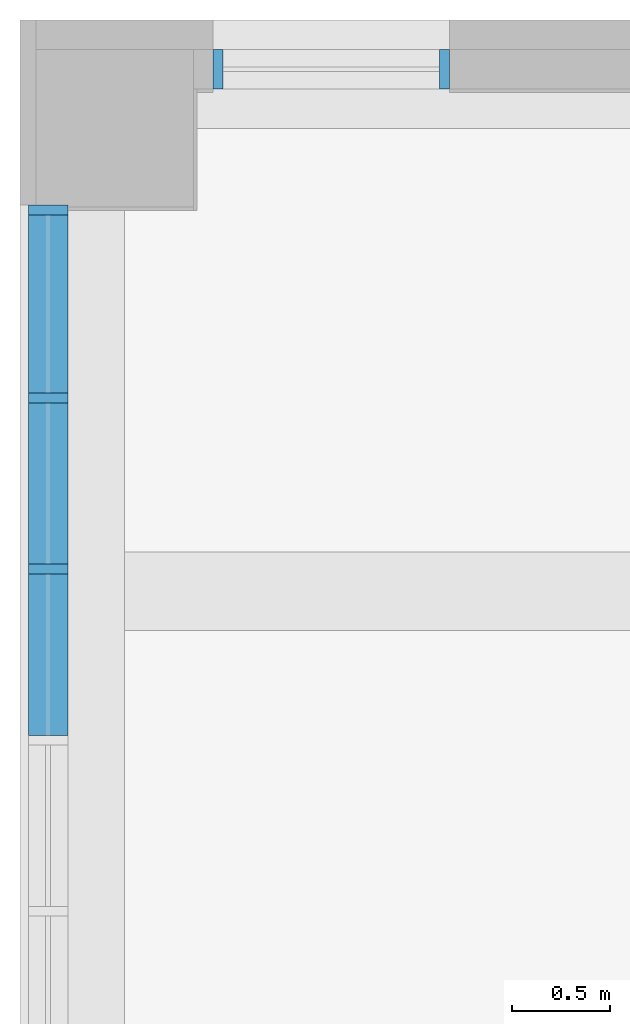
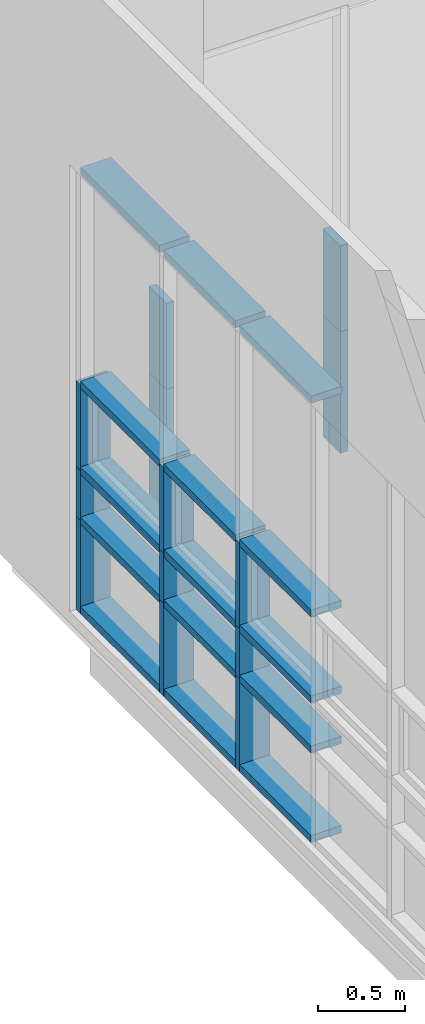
# One storey, part 29 of 74: 28 members, 2 elements without a shape of their own.
"""IFC2X3 building model written with IfcOpenShell, lengths in millimetres."""

import ifcopenshell
import ifcopenshell.guid

model = None  # the IFC model being written
_history = None  # IfcOwnerHistory: only IFC2X3 demands one
_inside = {}  # id of a spatial element -> (the spatial element, [elements in it])
_under = {}  # id of a project, library or spatial element -> (it, [spatial elements below it])
_declared = {}  # id of a project -> (the project, [libraries it declares])
_typed = {}  # id of a type object -> (the type object, [elements of that type])
_made_of = {}  # id of a material, layer set ... -> (it, [elements and type objects made of it])


def new_model(schema):
    """Start an empty IFC model of exactly this schema.

    Asked for "IFC4X3", IfcOpenShell would pick the latest addendum, in which some entities
    have other attributes; the version numbers below select the first issue.
    IFC2X3 requires an IfcOwnerHistory on every rooted entity: one is made here for all.
    """
    global model, _history
    if schema == "IFC4X3":
        model = ifcopenshell.file(schema_version=(4, 3, 0, 0))
    else:
        model = ifcopenshell.file(schema=schema)
    _inside.clear()
    _under.clear()
    _declared.clear()
    _typed.clear()
    _made_of.clear()
    _history = None
    if model.schema == "IFC2X3":
        org = make("IfcOrganization", Name="unknown")
        user = make(
            "IfcPersonAndOrganization",
            ThePerson=make("IfcPerson", FamilyName="unknown"),
            TheOrganization=org,
        )
        app = make(
            "IfcApplication",
            ApplicationDeveloper=org,
            Version="unknown",
            ApplicationFullName="unknown",
            ApplicationIdentifier="unknown",
        )
        _history = make(
            "IfcOwnerHistory",
            OwningUser=user,
            OwningApplication=app,
            ChangeAction="ADDED",
            CreationDate=0,
        )
    return model


def make(cls, **values):
    """One entity of the class cls with the attributes given. An attribute that is None is left unset."""
    return model.create_entity(
        cls, **{name: value for name, value in values.items() if value is not None}
    )


def entity(cls, *values):
    """Any entity or typed value of the class cls, its attributes in the order of the schema. None: left unset."""
    e = model.create_entity(cls)
    for i, value in enumerate(values):
        if value is not None:
            e[i] = value
    return e


def rooted(cls, **values):
    """An entity with a GlobalId (a new one), such as an element, a storey or a relation."""
    return make(cls, GlobalId=ifcopenshell.guid.new(), OwnerHistory=_history, **values)


def si_unit(unit_type, name, prefix=None):
    """IfcSIUnit, for example si_unit("LENGTHUNIT", "METRE", prefix="MILLI")."""
    return make("IfcSIUnit", UnitType=unit_type, Prefix=prefix, Name=name)


def converted_unit(unit_type, name, factor, base, dimensions=None, offset=None):
    """IfcConversionBasedUnit, such as the inch: factor (a typed value) times the base unit."""
    return make(
        "IfcConversionBasedUnit"
        if offset is None
        else "IfcConversionBasedUnitWithOffset",
        ConversionOffset=offset,
        Dimensions=None
        if dimensions is None
        else entity("IfcDimensionalExponents", *dimensions),
        UnitType=unit_type,
        Name=name,
        ConversionFactor=make(
            "IfcMeasureWithUnit", ValueComponent=factor, UnitComponent=base
        ),
    )


def derived_unit(unit_type, elements):
    """IfcDerivedUnit: a product of units, each with its exponent."""
    return make(
        "IfcDerivedUnit",
        Elements=[
            make("IfcDerivedUnitElement", Unit=unit, Exponent=power)
            for unit, power in elements
        ],
        UnitType=unit_type,
    )


def assignment(units):
    """IfcUnitAssignment: the units of a project."""
    return None if units is None else make("IfcUnitAssignment", Units=units)


def point(xyz):
    """IfcCartesianPoint."""
    return None if xyz is None else make("IfcCartesianPoint", Coordinates=xyz)


def direction(xyz):
    """IfcDirection."""
    return None if xyz is None else make("IfcDirection", DirectionRatios=xyz)


def frame(location, z_axis=None, x_axis=None):
    """IfcAxis2Placement3D, a coordinate frame: its origin and axes. An axis left out is left unset."""
    return make(
        "IfcAxis2Placement3D",
        Location=point(location),
        Axis=direction(z_axis),
        RefDirection=direction(x_axis),
    )


def frame_2d(location, x_axis=None):
    """IfcAxis2Placement2D, a coordinate frame in the plane: its origin and x axis."""
    return make(
        "IfcAxis2Placement2D", Location=point(location), RefDirection=direction(x_axis)
    )


def origin():
    """The frame at (0, 0, 0) with its axes left unset."""
    return frame((0.0, 0.0, 0.0))


def origin_2d_with_axis():
    """The frame at (0, 0) in the plane with the x axis (1, 0) written out."""
    return frame_2d((0.0, 0.0), x_axis=(1.0, 0.0))


def place(relative_to, where):
    """IfcLocalPlacement: puts the frame where relative to a parent placement (None: the world)."""
    return make(
        "IfcLocalPlacement", PlacementRelTo=relative_to, RelativePlacement=where
    )


def context(
    kind, dimensions, precision=None, world=None, true_north=None, identifier=None
):
    """IfcGeometricRepresentationContext, for example the 3D "Model" context."""
    return make(
        "IfcGeometricRepresentationContext",
        ContextIdentifier=identifier,
        ContextType=kind,
        CoordinateSpaceDimension=dimensions,
        Precision=precision,
        WorldCoordinateSystem=world,
        TrueNorth=true_north,
    )


def subcontext(parent, identifier, kind, view, scale=None):
    """IfcGeometricRepresentationSubContext, for example "Body" below "Model"."""
    return make(
        "IfcGeometricRepresentationSubContext",
        ContextIdentifier=identifier,
        ContextType=kind,
        ParentContext=parent,
        TargetScale=scale,
        TargetView=view,
    )


def project(units=None, contexts=None):
    """IfcProject with its units and contexts."""
    return rooted(
        "IfcProject",
        Name="project",
        RepresentationContexts=contexts,
        UnitsInContext=assignment(units),
    )


def spatial(cls, under=None, at=None, **own):
    """A site, building, storey or space (cls), placed at a placement, below another one or the project."""
    s = rooted(cls, ObjectPlacement=at, **own)
    if under is not None:
        _under.setdefault(under.id(), (under, []))[1].append(s)
    return s


def profile(cls, at=None, kind="AREA", **sizes):
    """A parametric profile (cls). Its sizes go by their IFC names, for example OverallWidth=200.0."""
    return make(cls, ProfileType=kind, Position=at, **sizes)


def rectangle(**sizes):
    """IfcRectangleProfileDef."""
    return profile("IfcRectangleProfileDef", **sizes)


def extrude(swept, where, along, depth):
    """IfcExtrudedAreaSolid: the profile swept, set in the frame where, extruded along a direction by depth."""
    return make(
        "IfcExtrudedAreaSolid",
        SweptArea=swept,
        Position=where,
        ExtrudedDirection=direction(along),
        Depth=depth,
    )


def shape(context_of_items, identifier, shape_type, items):
    """IfcShapeRepresentation: the items that make up one representation, for example the "Body"."""
    return make(
        "IfcShapeRepresentation",
        ContextOfItems=context_of_items,
        RepresentationIdentifier=identifier,
        RepresentationType=shape_type,
        Items=items,
    )


def source(mapping_origin, context_of_items, identifier, shape_type, items):
    """IfcRepresentationMap: a shape defined once, which mapped items show again and again."""
    return make(
        "IfcRepresentationMap",
        MappingOrigin=mapping_origin,
        MappedRepresentation=shape(context_of_items, identifier, shape_type, items),
    )


def transform(
    local_origin,
    x_axis=None,
    y_axis=None,
    z_axis=None,
    scale=None,
    scale2=None,
    scale3=None,
    uniform=True,
):
    """IfcCartesianTransformationOperator3D, or its non-uniform kind. x_axis, y_axis, z_axis: its Axis1, 2, 3."""
    if uniform:
        return make(
            "IfcCartesianTransformationOperator3D",
            Axis1=direction(x_axis),
            Axis2=direction(y_axis),
            LocalOrigin=point(local_origin),
            Scale=scale,
            Axis3=direction(z_axis),
        )
    return make(
        "IfcCartesianTransformationOperator3DnonUniform",
        Axis1=direction(x_axis),
        Axis2=direction(y_axis),
        LocalOrigin=point(local_origin),
        Scale=scale,
        Axis3=direction(z_axis),
        Scale2=scale2,
        Scale3=scale3,
    )


def mapped(mapping_source, mapping_target):
    """IfcMappedItem: shows the shape of a source again, moved by a transform."""
    return make(
        "IfcMappedItem", MappingSource=mapping_source, MappingTarget=mapping_target
    )


def material(Name=None, Category=None):
    """IfcMaterial."""
    return make("IfcMaterial", Name=Name, Category=Category)


def made_of(thing, what):
    """Note that an element or type object is made of a material, layer set ...; save() writes the relation."""
    if what is not None:
        _made_of.setdefault(what.id(), (what, []))[1].append(thing)
    return thing


def type_object(cls, material=None, **own):
    """A type object (cls), such as IfcWallType, which elements share."""
    return made_of(rooted(cls, **own), material)


def type_shapes(of_type, sources):
    """Give a type object the sources (RepresentationMaps) that its elements show as mapped items."""
    of_type.RepresentationMaps = sources


def element(
    cls,
    number,
    at=None,
    inside=None,
    cuts=None,
    type_object=None,
    material=None,
    context=None,
    identifier="Body",
    shape_type=None,
    held_by="IfcProductDefinitionShape",
    body=None,
    shapes=None,
    **own,
):
    """One element of the class cls, such as IfcWall. Its Tag is "e" and its number.

    at: its placement. inside: the storey or other place that contains it. cuts: it is an
    opening in that element (IfcRelVoidsElement). A single representation is given by context,
    identifier, shape_type and body (its items); several are given by shapes. held_by: the class
    of the entity that holds the representations. save() writes the other relations.
    """
    e = rooted(cls, Tag="e%d" % number, ObjectPlacement=at, **own)
    if body is not None:
        shapes = [shape(context, identifier, shape_type, body)]
    if shapes is not None:
        e.Representation = make(held_by, Representations=shapes)
    if inside is not None:
        _inside.setdefault(inside.id(), (inside, []))[1].append(e)
    if cuts is not None:
        rooted(
            "IfcRelVoidsElement", RelatingBuildingElement=cuts, RelatedOpeningElement=e
        )
    if type_object is not None:
        _typed.setdefault(type_object.id(), (type_object, []))[1].append(e)
    return made_of(e, material)


def aggregate(whole, parts):
    """IfcRelAggregates: a whole, such as a stair, and the parts it consists of."""
    return rooted("IfcRelAggregates", RelatingObject=whole, RelatedObjects=parts)


def save(model, path):
    """Write the relations noted so far, then the file.

    IfcRelAggregates (storeys below a building ...), IfcRelContainedInSpatialStructure (elements
    in a storey), IfcRelDefinesByType, IfcRelAssociatesMaterial and IfcRelDeclares: one each for
    every whole, place, type object, material and project.
    """
    for whole, parts in _under.values():
        aggregate(whole, parts)
    for where, things in _inside.values():
        rooted(
            "IfcRelContainedInSpatialStructure",
            RelatedElements=things,
            RelatingStructure=where,
        )
    for kind, things in _typed.values():
        rooted("IfcRelDefinesByType", RelatedObjects=things, RelatingType=kind)
    for what, things in _made_of.values():
        rooted("IfcRelAssociatesMaterial", RelatedObjects=things, RelatingMaterial=what)
    for by, libraries in _declared.values():
        rooted("IfcRelDeclares", RelatingContext=by, RelatedDefinitions=libraries)
    model.write(path)


model = new_model("IFC2X3")

# Units and contexts
model_context = context("Model", 3, precision=0.01, world=origin(), true_north=direction((6.123031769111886e-17, 1.0)))
body_context = subcontext(model_context, "Body", "Model", "MODEL_VIEW")
ifc_project = project(units=[si_unit("LENGTHUNIT", "METRE", prefix="MILLI"), si_unit("AREAUNIT", "SQUARE_METRE"), si_unit("VOLUMEUNIT", "CUBIC_METRE"), converted_unit("PLANEANGLEUNIT", "DEGREE", entity("IfcRatioMeasure", 0.017453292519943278), si_unit("PLANEANGLEUNIT", "RADIAN"), dimensions=[0, 0, 0, 0, 0, 0, 0]), si_unit("MASSUNIT", "GRAM", prefix="KILO"), derived_unit("MASSDENSITYUNIT", [(si_unit("MASSUNIT", "GRAM", prefix="KILO"), 1), (si_unit("LENGTHUNIT", "METRE"), -3)]), derived_unit("MOMENTOFINERTIAUNIT", [(si_unit("LENGTHUNIT", "METRE"), 4)]), si_unit("TIMEUNIT", "SECOND"), si_unit("FREQUENCYUNIT", "HERTZ"), si_unit("THERMODYNAMICTEMPERATUREUNIT", "DEGREE_CELSIUS"), derived_unit("THERMALTRANSMITTANCEUNIT", [(si_unit("MASSUNIT", "GRAM", prefix="KILO"), 1), (si_unit("THERMODYNAMICTEMPERATUREUNIT", "KELVIN"), -1), (si_unit("TIMEUNIT", "SECOND"), -3)]), derived_unit("VOLUMETRICFLOWRATEUNIT", [(si_unit("LENGTHUNIT", "METRE"), 3), (si_unit("TIMEUNIT", "SECOND"), -1)]), derived_unit("MASSFLOWRATEUNIT", [(si_unit("MASSUNIT", "GRAM", prefix="KILO"), 1), (si_unit("TIMEUNIT", "SECOND"), -1)]), derived_unit("ROTATIONALFREQUENCYUNIT", [(si_unit("TIMEUNIT", "SECOND"), -1)]), si_unit("ELECTRICCURRENTUNIT", "AMPERE"), si_unit("ELECTRICVOLTAGEUNIT", "VOLT"), si_unit("POWERUNIT", "WATT"), si_unit("FORCEUNIT", "NEWTON", prefix="KILO"), si_unit("ILLUMINANCEUNIT", "LUX"), si_unit("LUMINOUSFLUXUNIT", "LUMEN"), si_unit("LUMINOUSINTENSITYUNIT", "CANDELA"), derived_unit("USERDEFINED", [(si_unit("MASSUNIT", "GRAM", prefix="KILO"), -1), (si_unit("LENGTHUNIT", "METRE"), -2), (si_unit("TIMEUNIT", "SECOND"), 3), (si_unit("LUMINOUSFLUXUNIT", "LUMEN"), 1)]), derived_unit("SOUNDPOWERUNIT", [(si_unit("MASSUNIT", "GRAM", prefix="KILO"), 1), (si_unit("LENGTHUNIT", "METRE"), 2), (si_unit("TIMEUNIT", "SECOND"), -3)]), derived_unit("SOUNDPRESSUREUNIT", [(si_unit("MASSUNIT", "GRAM", prefix="KILO"), 1), (si_unit("LENGTHUNIT", "METRE"), -1), (si_unit("TIMEUNIT", "SECOND"), -2)]), derived_unit("LINEARVELOCITYUNIT", [(si_unit("LENGTHUNIT", "METRE"), 1), (si_unit("TIMEUNIT", "SECOND"), -1)]), si_unit("PRESSUREUNIT", "PASCAL"), derived_unit("USERDEFINED", [(si_unit("LENGTHUNIT", "METRE"), -2), (si_unit("MASSUNIT", "GRAM", prefix="KILO"), 1), (si_unit("TIMEUNIT", "SECOND"), -2)]), derived_unit("LINEARFORCEUNIT", [(si_unit("MASSUNIT", "GRAM", prefix="KILO"), 1), (si_unit("LENGTHUNIT", "METRE"), 1), (si_unit("TIMEUNIT", "SECOND"), -2), (si_unit("LENGTHUNIT", "METRE"), -1)]), derived_unit("PLANARFORCEUNIT", [(si_unit("MASSUNIT", "GRAM", prefix="KILO"), 1), (si_unit("LENGTHUNIT", "METRE"), 1), (si_unit("TIMEUNIT", "SECOND"), -2), (si_unit("LENGTHUNIT", "METRE"), -2)])], contexts=[model_context])

# Site, building, storey
site_placement = place(None, frame((-14167.972527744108, -657.2125860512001, 0.0)))
site = spatial("IfcSite", under=ifc_project, at=site_placement, Name="Default", CompositionType="ELEMENT")
building_placement = place(site_placement, origin())
building = spatial("IfcBuilding", under=site, at=building_placement, Name="Sample Building", CompositionType="ELEMENT")
storey_placement = place(building_placement, frame((0.0, 0.0, 4800.0)))
storey = spatial("IfcBuildingStorey", under=building, at=storey_placement, Name="지상 2층", CompositionType="ELEMENT", Elevation=4800.000000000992)

# Curtain wall, members
curtain_wall_type = type_object("IfcCurtainWallType", Name="커튼월:CW112-스테인리스 스틸 커튼월", PredefinedType="NOTDEFINED")
curtain_wall_1_placement = place(storey_placement, frame((0.0, 0.0, -4800.0)))
curtain_wall_1 = element("IfcCurtainWall", 1, at=curtain_wall_1_placement, inside=storey, type_object=curtain_wall_type, Name="커튼월:CW112-스테인리스 스틸 커튼월", ObjectType="커튼월:CW112-스테인리스 스틸 커튼월")
ifc_material = material(Name="<Unnamed>")
member_type_1 = type_object("IfcMemberType", Name="직사각형 멀리언:CW200-직사각형 멀리언 50x200mm", PredefinedType="MULLION", material=ifc_material)
shared_shape_1 = source(origin(), body_context, "Body", "SweptSolid", [
    extrude(rectangle(XDim=200.0, YDim=50.0, at=origin_2d_with_axis()), frame((-25.0, 0.0, -850.0), z_axis=(0.0, 0.0, 1.0), x_axis=(0.0, -1.0, 0.0)), (0.0, 0.0, 1.0), 849.9999999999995),
])
type_shapes(member_type_1, [shared_shape_1])
member_1_placement = place(curtain_wall_1_placement, frame((16167.998485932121, 35657.21229514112, 4880.0), z_axis=(0.0, 0.0, -1.0), x_axis=(1.0, 0.0, 0.0)))
member_1 = element("IfcMember", 2, at=member_1_placement, type_object=member_type_1, material=ifc_material, Name="직사각형 멀리언:CW200-직사각형 멀리언 50x200mm", ObjectType="직사각형 멀리언:CW200-직사각형 멀리언 50x200mm", context=body_context, shape_type="MappedRepresentation", body=[
    mapped(shared_shape_1, transform((0.0, 0.0, 0.0), scale=1.0)),
])
member_type_2 = type_object("IfcMemberType", Name="직사각형 멀리언:CW200-직사각형 멀리언 50x200mm", PredefinedType="MULLION", material=ifc_material)
shared_shape_2 = source(origin(), body_context, "Body", "SweptSolid", [
    extrude(rectangle(XDim=200.0, YDim=50.0, at=origin_2d_with_axis()), frame((-25.0, 0.0, -600.0), z_axis=(0.0, 0.0, 1.0), x_axis=(0.0, -1.0, 0.0)), (0.0, 0.0, 1.0), 600.0),
])
type_shapes(member_type_2, [shared_shape_2])
member_2_placement = place(curtain_wall_1_placement, frame((14967.998485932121, 35657.21229514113, 6330.0), z_axis=(0.0, 0.0, 1.0), x_axis=(-1.0, 0.0, 0.0)))
member_2 = element("IfcMember", 3, at=member_2_placement, type_object=member_type_2, material=ifc_material, Name="직사각형 멀리언:CW200-직사각형 멀리언 50x200mm", ObjectType="직사각형 멀리언:CW200-직사각형 멀리언 50x200mm", context=body_context, shape_type="MappedRepresentation", body=[
    mapped(shared_shape_2, transform((0.0, 0.0, 0.0), scale=1.0)),
])

# Curtain wall, member
curtain_wall_2_placement = place(storey_placement, frame((0.0, 0.0, -4800.0)))
curtain_wall_2 = element("IfcCurtainWall", 4, at=curtain_wall_2_placement, inside=storey, type_object=curtain_wall_type, Name="커튼월:CW112-스테인리스 스틸 커튼월", ObjectType="커튼월:CW112-스테인리스 스틸 커튼월")
member_3_placement = place(curtain_wall_2_placement, frame((14130.455105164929, 34967.21227524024, 6480.0), z_axis=(0.0, 0.0, 1.0), x_axis=(0.0, 1.0, 0.0)))
member_3 = element("IfcMember", 5, at=member_3_placement, type_object=member_type_2, material=ifc_material, Name="직사각형 멀리언:CW200-직사각형 멀리언 50x200mm", ObjectType="직사각형 멀리언:CW200-직사각형 멀리언 50x200mm", context=body_context, shape_type="MappedRepresentation", body=[
    mapped(shared_shape_2, transform((0.0, 0.0, 0.0), scale=1.0)),
])

# Member
member_type_3 = type_object("IfcMemberType", Name="직사각형 멀리언:CW200-직사각형 멀리언 50x200mm", PredefinedType="MULLION", material=ifc_material)
shared_shape_3 = source(origin(), body_context, "Body", "SweptSolid", [
    extrude(rectangle(XDim=200.0, YDim=50.0, at=origin_2d_with_axis()), frame((-25.0, 0.0, -600.0), z_axis=(0.0, 0.0, 1.0), x_axis=(0.0, -1.0, 0.0)), (0.0, 0.0, 1.0), 600.0),
])
type_shapes(member_type_3, [shared_shape_3])
member_4_placement = place(curtain_wall_1_placement, frame((16167.998485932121, 35657.21229514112, 5730.0), z_axis=(0.0, 0.0, -1.0), x_axis=(1.0, 0.0, 0.0)))
member_4 = element("IfcMember", 6, at=member_4_placement, type_object=member_type_3, material=ifc_material, Name="직사각형 멀리언:CW200-직사각형 멀리언 50x200mm", ObjectType="직사각형 멀리언:CW200-직사각형 멀리언 50x200mm", context=body_context, shape_type="MappedRepresentation", body=[
    mapped(shared_shape_3, transform((0.0, 0.0, 0.0), scale=1.0)),
])

member_type_4 = type_object("IfcMemberType", Name="직사각형 멀리언:CW200-직사각형 멀리언 50x200mm", PredefinedType="MULLION", material=ifc_material)
shared_shape_4 = source(origin(), body_context, "Body", "SweptSolid", [
    extrude(rectangle(XDim=200.0, YDim=50.0, at=origin_2d_with_axis()), frame((-25.0, 0.0, -850.0), z_axis=(0.0, 0.0, 1.0), x_axis=(0.0, -1.0, 0.0)), (0.0, 0.0, 1.0), 849.9999999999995),
])
type_shapes(member_type_4, [shared_shape_4])
member_5_placement = place(curtain_wall_1_placement, frame((14967.998485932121, 35657.21229514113, 5730.0), z_axis=(0.0, 0.0, 1.0), x_axis=(-1.0, 0.0, 0.0)))
member_5 = element("IfcMember", 7, at=member_5_placement, type_object=member_type_4, material=ifc_material, Name="직사각형 멀리언:CW200-직사각형 멀리언 50x200mm", ObjectType="직사각형 멀리언:CW200-직사각형 멀리언 50x200mm", context=body_context, shape_type="MappedRepresentation", body=[
    mapped(shared_shape_4, transform((0.0, 0.0, 0.0), scale=1.0)),
])

aggregate(curtain_wall_1, [member_1, member_2, member_4, member_5])

member_type_5 = type_object("IfcMemberType", Name="직사각형 멀리언:CW200-직사각형 멀리언 50x200mm", PredefinedType="MULLION", material=ifc_material)
shared_shape_5 = source(origin(), body_context, "Body", "SweptSolid", [
    extrude(rectangle(XDim=200.0, YDim=50.0, at=origin_2d_with_axis()), frame((-25.0, 0.0, -903.7499999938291), z_axis=(0.0, 0.0, 1.0), x_axis=(0.0, -1.0, 0.0)), (0.0, 0.0, 1.0), 903.7499999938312),
])
type_shapes(member_type_5, [shared_shape_5])
member_6_placement = place(curtain_wall_2_placement, frame((14130.455105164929, 34917.21227524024, 4880.0), z_axis=(0.0, 1.0, 0.0), x_axis=(0.0, 0.0, -1.0)))
member_6 = element("IfcMember", 8, at=member_6_placement, type_object=member_type_5, material=ifc_material, Name="직사각형 멀리언:CW200-직사각형 멀리언 50x200mm", ObjectType="직사각형 멀리언:CW200-직사각형 멀리언 50x200mm", context=body_context, shape_type="MappedRepresentation", body=[
    mapped(shared_shape_5, transform((0.0, 0.0, 0.0), scale=1.0)),
])

member_type_6 = type_object("IfcMemberType", Name="직사각형 멀리언:CW200-직사각형 멀리언 50x200mm", PredefinedType="MULLION", material=ifc_material)
shared_shape_6 = source(origin(), body_context, "Body", "SweptSolid", [
    extrude(rectangle(XDim=200.0, YDim=50.0, at=origin_2d_with_axis()), frame((-25.0, 0.0, -903.7499999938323), z_axis=(0.0, 0.0, 1.0), x_axis=(0.0, -1.0, 0.0)), (0.0, 0.0, 1.0), 903.7499999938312),
])
type_shapes(member_type_6, [shared_shape_6])
member_7_placement = place(curtain_wall_2_placement, frame((14130.455105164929, 34013.46227524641, 8000.0), z_axis=(0.0, -1.0, 0.0), x_axis=(0.0, 0.0, 1.0)))
member_7 = element("IfcMember", 9, at=member_7_placement, type_object=member_type_6, material=ifc_material, Name="직사각형 멀리언:CW200-직사각형 멀리언 50x200mm", ObjectType="직사각형 멀리언:CW200-직사각형 멀리언 50x200mm", context=body_context, shape_type="MappedRepresentation", body=[
    mapped(shared_shape_6, transform((0.0, 0.0, 0.0), scale=1.0)),
])

member_type_7 = type_object("IfcMemberType", Name="직사각형 멀리언:CW200-직사각형 멀리언 50x200mm", PredefinedType="MULLION", material=ifc_material)
shared_shape_7 = source(origin(), body_context, "Body", "SweptSolid", [
    extrude(rectangle(XDim=200.0, YDim=50.0, at=origin_2d_with_axis()), frame((-25.0, 0.0, -818.7500000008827), z_axis=(0.0, 0.0, 1.0), x_axis=(0.0, -1.0, 0.0)), (0.0, 0.0, 1.0), 818.7500000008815),
])
type_shapes(member_type_7, [shared_shape_7])
member_8_placement = place(curtain_wall_2_placement, frame((14130.455105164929, 33963.46227524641, 4880.0), z_axis=(0.0, 1.0, 0.0), x_axis=(0.0, 0.0, -1.0)))
member_8 = element("IfcMember", 10, at=member_8_placement, type_object=member_type_7, material=ifc_material, Name="직사각형 멀리언:CW200-직사각형 멀리언 50x200mm", ObjectType="직사각형 멀리언:CW200-직사각형 멀리언 50x200mm", context=body_context, shape_type="MappedRepresentation", body=[
    mapped(shared_shape_7, transform((0.0, 0.0, 0.0), scale=1.0)),
])

member_9_placement = place(curtain_wall_2_placement, frame((14130.455105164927, 33094.71227524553, 4880.0), z_axis=(0.0, 1.0, 0.0), x_axis=(0.0, 0.0, -1.0)))
member_9 = element("IfcMember", 11, at=member_9_placement, type_object=member_type_7, material=ifc_material, Name="직사각형 멀리언:CW200-직사각형 멀리언 50x200mm", ObjectType="직사각형 멀리언:CW200-직사각형 멀리언 50x200mm", context=body_context, shape_type="MappedRepresentation", body=[
    mapped(shared_shape_7, transform((0.0, 0.0, 0.0), scale=1.0)),
])

member_type_8 = type_object("IfcMemberType", Name="직사각형 멀리언:CW200-직사각형 멀리언 50x200mm", PredefinedType="MULLION", material=ifc_material)
shared_shape_8 = source(origin(), body_context, "Body", "SweptSolid", [
    extrude(rectangle(XDim=200.0, YDim=50.0, at=origin_2d_with_axis()), frame((0.0, 0.0, -650.0), z_axis=(0.0, 0.0, 1.0), x_axis=(0.0, -1.0, 0.0)), (0.0, 0.0, 1.0), 650.0000000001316),
])
type_shapes(member_type_8, [shared_shape_8])
member_10_placement = place(curtain_wall_2_placement, frame((14130.455105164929, 33988.46227524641, 4880.0), z_axis=(0.0, 0.0, -1.0), x_axis=(0.0, -1.0, 0.0)))
member_10 = element("IfcMember", 12, at=member_10_placement, type_object=member_type_8, material=ifc_material, Name="직사각형 멀리언:CW200-직사각형 멀리언 50x200mm", ObjectType="직사각형 멀리언:CW200-직사각형 멀리언 50x200mm", context=body_context, shape_type="MappedRepresentation", body=[
    mapped(shared_shape_8, transform((0.0, 0.0, 0.0), scale=1.0)),
])

member_11_placement = place(curtain_wall_2_placement, frame((14130.455105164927, 33119.71227524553, 4880.0), z_axis=(0.0, 0.0, -1.0), x_axis=(0.0, -1.0, 0.0)))
member_11 = element("IfcMember", 13, at=member_11_placement, type_object=member_type_8, material=ifc_material, Name="직사각형 멀리언:CW200-직사각형 멀리언 50x200mm", ObjectType="직사각형 멀리언:CW200-직사각형 멀리언 50x200mm", context=body_context, shape_type="MappedRepresentation", body=[
    mapped(shared_shape_8, transform((0.0, 0.0, 0.0), scale=1.0)),
])

member_type_9 = type_object("IfcMemberType", Name="직사각형 멀리언:CW200-직사각형 멀리언 50x200mm", PredefinedType="MULLION", material=ifc_material)
shared_shape_9 = source(origin(), body_context, "Body", "SweptSolid", [
    extrude(rectangle(XDim=200.0, YDim=50.0, at=origin_2d_with_axis()), frame((-25.0, 0.0, -818.7500000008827), z_axis=(0.0, 0.0, 1.0), x_axis=(0.0, -1.0, 0.0)), (0.0, 0.0, 1.0), 818.7500000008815),
])
type_shapes(member_type_9, [shared_shape_9])
member_12_placement = place(curtain_wall_2_placement, frame((14130.455105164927, 33144.712275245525, 8000.0), z_axis=(0.0, -1.0, 0.0), x_axis=(0.0, 0.0, 1.0)))
member_12 = element("IfcMember", 14, at=member_12_placement, type_object=member_type_9, material=ifc_material, Name="직사각형 멀리언:CW200-직사각형 멀리언 50x200mm", ObjectType="직사각형 멀리언:CW200-직사각형 멀리언 50x200mm", context=body_context, shape_type="MappedRepresentation", body=[
    mapped(shared_shape_9, transform((0.0, 0.0, 0.0), scale=1.0)),
])

member_13_placement = place(curtain_wall_2_placement, frame((14130.455105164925, 32275.96227524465, 8000.0), z_axis=(0.0, -1.0, 0.0), x_axis=(0.0, 0.0, 1.0)))
member_13 = element("IfcMember", 15, at=member_13_placement, type_object=member_type_9, material=ifc_material, Name="직사각형 멀리언:CW200-직사각형 멀리언 50x200mm", ObjectType="직사각형 멀리언:CW200-직사각형 멀리언 50x200mm", context=body_context, shape_type="MappedRepresentation", body=[
    mapped(shared_shape_9, transform((0.0, 0.0, 0.0), scale=1.0)),
])

member_type_10 = type_object("IfcMemberType", Name="직사각형 멀리언:CW200-직사각형 멀리언 50x200mm", PredefinedType="MULLION", material=ifc_material)
shared_shape_10 = source(origin(), body_context, "Body", "SweptSolid", [
    extrude(rectangle(XDim=200.0, YDim=50.0, at=origin_2d_with_axis()), frame((0.0, 0.0, -903.7499999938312), z_axis=(0.0, 0.0, 1.0), x_axis=(0.0, -1.0, 0.0)), (0.0, 0.0, 1.0), 903.7499999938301),
])
type_shapes(member_type_10, [shared_shape_10])
member_14_placement = place(curtain_wall_2_placement, frame((14130.455105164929, 34013.46227524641, 5880.0), z_axis=(0.0, -1.0, 0.0), x_axis=(0.0, 0.0, 1.0)))
member_14 = element("IfcMember", 16, at=member_14_placement, type_object=member_type_10, material=ifc_material, Name="직사각형 멀리언:CW200-직사각형 멀리언 50x200mm", ObjectType="직사각형 멀리언:CW200-직사각형 멀리언 50x200mm", context=body_context, shape_type="MappedRepresentation", body=[
    mapped(shared_shape_10, transform((0.0, 0.0, 0.0), scale=1.0)),
])

member_15_placement = place(curtain_wall_2_placement, frame((14130.455105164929, 34013.46227524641, 6480.0), z_axis=(0.0, -1.0, 0.0), x_axis=(0.0, 0.0, 1.0)))
member_15 = element("IfcMember", 17, at=member_15_placement, type_object=member_type_10, material=ifc_material, Name="직사각형 멀리언:CW200-직사각형 멀리언 50x200mm", ObjectType="직사각형 멀리언:CW200-직사각형 멀리언 50x200mm", context=body_context, shape_type="MappedRepresentation", body=[
    mapped(shared_shape_10, transform((0.0, 0.0, 0.0), scale=1.0)),
])

member_16_placement = place(curtain_wall_2_placement, frame((14130.455105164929, 34013.46227524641, 5530.0), z_axis=(0.0, -1.0, 0.0), x_axis=(0.0, 0.0, 1.0)))
member_16 = element("IfcMember", 18, at=member_16_placement, type_object=member_type_10, material=ifc_material, Name="직사각형 멀리언:CW200-직사각형 멀리언 50x200mm", ObjectType="직사각형 멀리언:CW200-직사각형 멀리언 50x200mm", context=body_context, shape_type="MappedRepresentation", body=[
    mapped(shared_shape_10, transform((0.0, 0.0, 0.0), scale=1.0)),
])

member_type_11 = type_object("IfcMemberType", Name="직사각형 멀리언:CW200-직사각형 멀리언 50x200mm", PredefinedType="MULLION", material=ifc_material)
shared_shape_11 = source(origin(), body_context, "Body", "SweptSolid", [
    extrude(rectangle(XDim=200.0, YDim=50.0, at=origin_2d_with_axis()), frame((0.0, 0.0, -818.7500000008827), z_axis=(0.0, 0.0, 1.0), x_axis=(0.0, -1.0, 0.0)), (0.0, 0.0, 1.0), 818.7500000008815),
])
type_shapes(member_type_11, [shared_shape_11])
member_17_placement = place(curtain_wall_2_placement, frame((14130.455105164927, 33144.712275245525, 5880.0), z_axis=(0.0, -1.0, 0.0), x_axis=(0.0, 0.0, 1.0)))
member_17 = element("IfcMember", 19, at=member_17_placement, type_object=member_type_11, material=ifc_material, Name="직사각형 멀리언:CW200-직사각형 멀리언 50x200mm", ObjectType="직사각형 멀리언:CW200-직사각형 멀리언 50x200mm", context=body_context, shape_type="MappedRepresentation", body=[
    mapped(shared_shape_11, transform((0.0, 0.0, 0.0), scale=1.0)),
])

member_18_placement = place(curtain_wall_2_placement, frame((14130.455105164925, 32275.96227524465, 5880.0), z_axis=(0.0, -1.0, 0.0), x_axis=(0.0, 0.0, 1.0)))
member_18 = element("IfcMember", 20, at=member_18_placement, type_object=member_type_11, material=ifc_material, Name="직사각형 멀리언:CW200-직사각형 멀리언 50x200mm", ObjectType="직사각형 멀리언:CW200-직사각형 멀리언 50x200mm", context=body_context, shape_type="MappedRepresentation", body=[
    mapped(shared_shape_11, transform((0.0, 0.0, 0.0), scale=1.0)),
])

member_19_placement = place(curtain_wall_2_placement, frame((14130.455105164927, 33144.712275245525, 6480.0), z_axis=(0.0, -1.0, 0.0), x_axis=(0.0, 0.0, 1.0)))
member_19 = element("IfcMember", 21, at=member_19_placement, type_object=member_type_11, material=ifc_material, Name="직사각형 멀리언:CW200-직사각형 멀리언 50x200mm", ObjectType="직사각형 멀리언:CW200-직사각형 멀리언 50x200mm", context=body_context, shape_type="MappedRepresentation", body=[
    mapped(shared_shape_11, transform((0.0, 0.0, 0.0), scale=1.0)),
])

member_20_placement = place(curtain_wall_2_placement, frame((14130.455105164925, 32275.96227524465, 6480.0), z_axis=(0.0, -1.0, 0.0), x_axis=(0.0, 0.0, 1.0)))
member_20 = element("IfcMember", 22, at=member_20_placement, type_object=member_type_11, material=ifc_material, Name="직사각형 멀리언:CW200-직사각형 멀리언 50x200mm", ObjectType="직사각형 멀리언:CW200-직사각형 멀리언 50x200mm", context=body_context, shape_type="MappedRepresentation", body=[
    mapped(shared_shape_11, transform((0.0, 0.0, 0.0), scale=1.0)),
])

member_21_placement = place(curtain_wall_2_placement, frame((14130.455105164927, 33144.712275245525, 5530.0), z_axis=(0.0, -1.0, 0.0), x_axis=(0.0, 0.0, 1.0)))
member_21 = element("IfcMember", 23, at=member_21_placement, type_object=member_type_11, material=ifc_material, Name="직사각형 멀리언:CW200-직사각형 멀리언 50x200mm", ObjectType="직사각형 멀리언:CW200-직사각형 멀리언 50x200mm", context=body_context, shape_type="MappedRepresentation", body=[
    mapped(shared_shape_11, transform((0.0, 0.0, 0.0), scale=1.0)),
])

member_22_placement = place(curtain_wall_2_placement, frame((14130.455105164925, 32275.96227524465, 5530.0), z_axis=(0.0, -1.0, 0.0), x_axis=(0.0, 0.0, 1.0)))
member_22 = element("IfcMember", 24, at=member_22_placement, type_object=member_type_11, material=ifc_material, Name="직사각형 멀리언:CW200-직사각형 멀리언 50x200mm", ObjectType="직사각형 멀리언:CW200-직사각형 멀리언 50x200mm", context=body_context, shape_type="MappedRepresentation", body=[
    mapped(shared_shape_11, transform((0.0, 0.0, 0.0), scale=1.0)),
])

member_type_12 = type_object("IfcMemberType", Name="직사각형 멀리언:CW200-직사각형 멀리언 50x200mm", PredefinedType="MULLION", material=ifc_material)
shared_shape_12 = source(origin(), body_context, "Body", "SweptSolid", [
    extrude(rectangle(XDim=200.0, YDim=50.0, at=origin_2d_with_axis()), frame((-25.0, 0.0, -350.0), z_axis=(0.0, 0.0, 1.0), x_axis=(0.0, -1.0, 0.0)), (0.0, 0.0, 1.0), 350.00000000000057),
])
type_shapes(member_type_12, [shared_shape_12])
member_23_placement = place(curtain_wall_2_placement, frame((14130.455105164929, 34967.21227524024, 5880.0), z_axis=(0.0, 0.0, 1.0), x_axis=(0.0, 1.0, 0.0)))
member_23 = element("IfcMember", 25, at=member_23_placement, type_object=member_type_12, material=ifc_material, Name="직사각형 멀리언:CW200-직사각형 멀리언 50x200mm", ObjectType="직사각형 멀리언:CW200-직사각형 멀리언 50x200mm", context=body_context, shape_type="MappedRepresentation", body=[
    mapped(shared_shape_12, transform((0.0, 0.0, 0.0), scale=1.0)),
])

member_type_13 = type_object("IfcMemberType", Name="직사각형 멀리언:CW200-직사각형 멀리언 50x200mm", PredefinedType="MULLION", material=ifc_material)
shared_shape_13 = source(origin(), body_context, "Body", "SweptSolid", [
    extrude(rectangle(XDim=200.0, YDim=50.0, at=origin_2d_with_axis()), frame((0.0, 0.0, -600.0), z_axis=(0.0, 0.0, 1.0), x_axis=(0.0, -1.0, 0.0)), (0.0, 0.0, 1.0), 600.0),
])
type_shapes(member_type_13, [shared_shape_13])
member_24_placement = place(curtain_wall_2_placement, frame((14130.455105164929, 33988.46227524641, 5880.0), z_axis=(0.0, 0.0, -1.0), x_axis=(0.0, -1.0, 0.0)))
member_24 = element("IfcMember", 26, at=member_24_placement, type_object=member_type_13, material=ifc_material, Name="직사각형 멀리언:CW200-직사각형 멀리언 50x200mm", ObjectType="직사각형 멀리언:CW200-직사각형 멀리언 50x200mm", context=body_context, shape_type="MappedRepresentation", body=[
    mapped(shared_shape_13, transform((0.0, 0.0, 0.0), scale=1.0)),
])

member_25_placement = place(curtain_wall_2_placement, frame((14130.455105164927, 33119.71227524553, 5880.0), z_axis=(0.0, 0.0, -1.0), x_axis=(0.0, -1.0, 0.0)))
member_25 = element("IfcMember", 27, at=member_25_placement, type_object=member_type_13, material=ifc_material, Name="직사각형 멀리언:CW200-직사각형 멀리언 50x200mm", ObjectType="직사각형 멀리언:CW200-직사각형 멀리언 50x200mm", context=body_context, shape_type="MappedRepresentation", body=[
    mapped(shared_shape_13, transform((0.0, 0.0, 0.0), scale=1.0)),
])

member_type_14 = type_object("IfcMemberType", Name="직사각형 멀리언:CW200-직사각형 멀리언 50x200mm", PredefinedType="MULLION", material=ifc_material)
shared_shape_14 = source(origin(), body_context, "Body", "SweptSolid", [
    extrude(rectangle(XDim=200.0, YDim=50.0, at=origin_2d_with_axis()), frame((-25.0, 0.0, -650.0), z_axis=(0.0, 0.0, 1.0), x_axis=(0.0, -1.0, 0.0)), (0.0, 0.0, 1.0), 650.0000000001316),
])
type_shapes(member_type_14, [shared_shape_14])
member_26_placement = place(curtain_wall_2_placement, frame((14130.455105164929, 34967.21227524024, 5530.0), z_axis=(0.0, 0.0, 1.0), x_axis=(0.0, 1.0, 0.0)))
member_26 = element("IfcMember", 28, at=member_26_placement, type_object=member_type_14, material=ifc_material, Name="직사각형 멀리언:CW200-직사각형 멀리언 50x200mm", ObjectType="직사각형 멀리언:CW200-직사각형 멀리언 50x200mm", context=body_context, shape_type="MappedRepresentation", body=[
    mapped(shared_shape_14, transform((0.0, 0.0, 0.0), scale=1.0)),
])

member_type_15 = type_object("IfcMemberType", Name="직사각형 멀리언:CW200-직사각형 멀리언 50x200mm", PredefinedType="MULLION", material=ifc_material)
shared_shape_15 = source(origin(), body_context, "Body", "SweptSolid", [
    extrude(rectangle(XDim=200.0, YDim=50.0, at=origin_2d_with_axis()), frame((0.0, 0.0, -350.0), z_axis=(0.0, 0.0, 1.0), x_axis=(0.0, -1.0, 0.0)), (0.0, 0.0, 1.0), 350.00000000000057),
])
type_shapes(member_type_15, [shared_shape_15])
member_27_placement = place(curtain_wall_2_placement, frame((14130.455105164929, 33988.46227524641, 5530.0), z_axis=(0.0, 0.0, -1.0), x_axis=(0.0, -1.0, 0.0)))
member_27 = element("IfcMember", 29, at=member_27_placement, type_object=member_type_15, material=ifc_material, Name="직사각형 멀리언:CW200-직사각형 멀리언 50x200mm", ObjectType="직사각형 멀리언:CW200-직사각형 멀리언 50x200mm", context=body_context, shape_type="MappedRepresentation", body=[
    mapped(shared_shape_15, transform((0.0, 0.0, 0.0), scale=1.0)),
])

member_28_placement = place(curtain_wall_2_placement, frame((14130.455105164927, 33119.71227524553, 5530.0), z_axis=(0.0, 0.0, -1.0), x_axis=(0.0, -1.0, 0.0)))
member_28 = element("IfcMember", 30, at=member_28_placement, type_object=member_type_15, material=ifc_material, Name="직사각형 멀리언:CW200-직사각형 멀리언 50x200mm", ObjectType="직사각형 멀리언:CW200-직사각형 멀리언 50x200mm", context=body_context, shape_type="MappedRepresentation", body=[
    mapped(shared_shape_15, transform((0.0, 0.0, 0.0), scale=1.0)),
])

aggregate(curtain_wall_2, [member_6, member_7, member_8, member_10, member_12, member_9, member_11, member_13, member_3, member_14, member_17, member_18, member_23, member_15, member_19, member_20, member_24, member_25, member_26, member_16, member_21, member_22, member_27, member_28])

save(model, "model.ifc")
